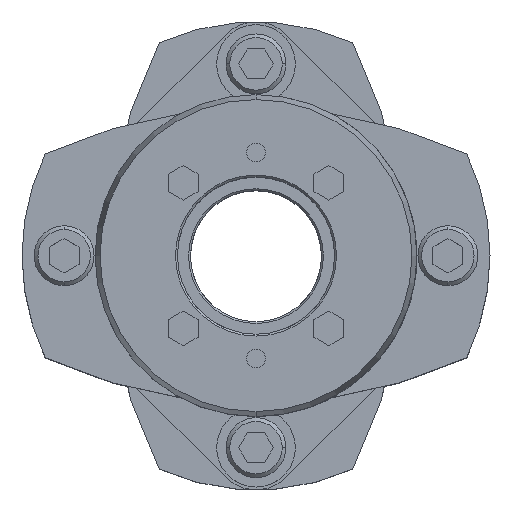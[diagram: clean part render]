
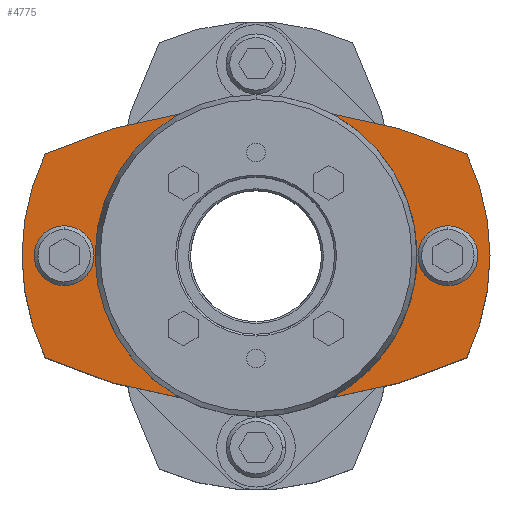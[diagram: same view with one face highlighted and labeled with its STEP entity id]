
A CAD part, top view. The second image highlights one B-rep face of the part: STEP entity #4775.
In plain terms, the highlighted planar face has unit normal (0, 0, 1).
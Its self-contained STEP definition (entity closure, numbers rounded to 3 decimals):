
#2207=CARTESIAN_POINT('',(0.,39.5,35.5));
#2208=VERTEX_POINT('',#2207);
#2224=CARTESIAN_POINT('',(-56.263,27.217,35.5));
#2225=VERTEX_POINT('',#2224);
#2232=CARTESIAN_POINT('',(0.,-95.5,35.5));
#2233=DIRECTION('',(0.0,0.0,-1.0));
#2234=DIRECTION('',(0.0,1.0,0.0));
#2235=AXIS2_PLACEMENT_3D('',#2232,#2233,#2234);
#2236=CIRCLE('',#2235,135.);
#2237=EDGE_CURVE('',#2225,#2208,#2236,.T.);
#2247=CARTESIAN_POINT('',(0.,-39.5,35.5));
#2248=VERTEX_POINT('',#2247);
#2257=CARTESIAN_POINT('',(-56.263,-27.217,35.5));
#2258=VERTEX_POINT('',#2257);
#2259=CARTESIAN_POINT('',(0.,95.5,35.5));
#2260=DIRECTION('',(0.0,0.0,-1.0));
#2261=DIRECTION('',(0.0,1.0,0.0));
#2262=AXIS2_PLACEMENT_3D('',#2259,#2260,#2261);
#2263=CIRCLE('',#2262,135.);
#2264=EDGE_CURVE('',#2248,#2258,#2263,.T.);
#2513=CARTESIAN_POINT('',(0.,32.5,35.5));
#2514=VERTEX_POINT('',#2513);
#2564=CARTESIAN_POINT('',(0.,-32.5,35.5));
#2565=VERTEX_POINT('',#2564);
#2572=CARTESIAN_POINT('',(0.,0.,35.5));
#2573=DIRECTION('',(0.0,0.0,-1.0));
#2574=DIRECTION('',(0.0,1.0,0.0));
#2575=AXIS2_PLACEMENT_3D('',#2572,#2573,#2574);
#2576=CIRCLE('',#2575,32.5);
#2577=EDGE_CURVE('',#2514,#2565,#2576,.T.);
#2673=CARTESIAN_POINT('',(-51.25,8.,35.5));
#2674=VERTEX_POINT('',#2673);
#2690=CARTESIAN_POINT('',(-51.25,-8.,35.5));
#2691=VERTEX_POINT('',#2690);
#2698=CARTESIAN_POINT('',(-51.25,0.,35.5));
#2699=DIRECTION('',(0.0,0.0,-1.0));
#2700=DIRECTION('',(0.0,1.0,0.0));
#2701=AXIS2_PLACEMENT_3D('',#2698,#2699,#2700);
#2702=CIRCLE('',#2701,8.0);
#2703=EDGE_CURVE('',#2674,#2691,#2702,.T.);
#2747=CARTESIAN_POINT('',(51.25,8.,35.5));
#2748=VERTEX_POINT('',#2747);
#2764=CARTESIAN_POINT('',(51.25,-8.,35.5));
#2765=VERTEX_POINT('',#2764);
#2772=CARTESIAN_POINT('',(51.25,0.,35.5));
#2773=DIRECTION('',(0.0,0.0,-1.0));
#2774=DIRECTION('',(0.0,1.0,0.0));
#2775=AXIS2_PLACEMENT_3D('',#2772,#2773,#2774);
#2776=CIRCLE('',#2775,8.0);
#2777=EDGE_CURVE('',#2748,#2765,#2776,.T.);
#3316=CARTESIAN_POINT('',(51.25,0.,35.5));
#3317=DIRECTION('',(0.0,0.0,-1.0));
#3318=DIRECTION('',(0.0,1.0,0.0));
#3319=AXIS2_PLACEMENT_3D('',#3316,#3317,#3318);
#3320=CIRCLE('',#3319,8.0);
#3321=EDGE_CURVE('',#2765,#2748,#3320,.T.);
#3376=CARTESIAN_POINT('',(-51.25,0.,35.5));
#3377=DIRECTION('',(0.0,0.0,-1.0));
#3378=DIRECTION('',(0.0,1.0,0.0));
#3379=AXIS2_PLACEMENT_3D('',#3376,#3377,#3378);
#3380=CIRCLE('',#3379,8.0);
#3381=EDGE_CURVE('',#2691,#2674,#3380,.T.);
#4448=CARTESIAN_POINT('',(0.,0.,35.5));
#4449=DIRECTION('',(0.0,0.0,-1.0));
#4450=DIRECTION('',(0.0,1.0,0.0));
#4451=AXIS2_PLACEMENT_3D('',#4448,#4449,#4450);
#4452=CIRCLE('',#4451,32.5);
#4453=EDGE_CURVE('',#2565,#2514,#4452,.T.);
#4669=CARTESIAN_POINT('',(56.263,27.217,35.5));
#4670=VERTEX_POINT('',#4669);
#4671=CARTESIAN_POINT('',(56.263,-27.217,35.5));
#4672=VERTEX_POINT('',#4671);
#4673=CARTESIAN_POINT('',(0.,0.,35.5));
#4674=DIRECTION('',(0.0,0.0,-1.0));
#4675=DIRECTION('',(0.0,1.0,0.0));
#4676=AXIS2_PLACEMENT_3D('',#4673,#4674,#4675);
#4677=CIRCLE('',#4676,62.5);
#4678=EDGE_CURVE('',#4670,#4672,#4677,.T.);
#4704=CARTESIAN_POINT('',(0.,95.5,35.5));
#4705=DIRECTION('',(0.0,0.0,-1.0));
#4706=DIRECTION('',(0.0,1.0,0.0));
#4707=AXIS2_PLACEMENT_3D('',#4704,#4705,#4706);
#4708=CIRCLE('',#4707,135.);
#4709=EDGE_CURVE('',#4672,#2248,#4708,.T.);
#4719=CARTESIAN_POINT('',(0.,0.,35.5));
#4720=DIRECTION('',(0.0,0.0,-1.0));
#4721=DIRECTION('',(0.0,1.0,0.0));
#4722=AXIS2_PLACEMENT_3D('',#4719,#4720,#4721);
#4723=CIRCLE('',#4722,62.5);
#4724=EDGE_CURVE('',#2258,#2225,#4723,.T.);
#4738=CARTESIAN_POINT('',(0.,-95.5,35.5));
#4739=DIRECTION('',(0.0,0.0,-1.0));
#4740=DIRECTION('',(0.0,1.0,0.0));
#4741=AXIS2_PLACEMENT_3D('',#4738,#4739,#4740);
#4742=CIRCLE('',#4741,135.);
#4743=EDGE_CURVE('',#2208,#4670,#4742,.T.);
#4750=CARTESIAN_POINT('',(0.,0.,35.5));
#4751=DIRECTION('',(0.0,0.0,1.0));
#4752=DIRECTION('',(0.0,1.0,0.0));
#4753=AXIS2_PLACEMENT_3D('',#4750,#4751,#4752);
#4754=PLANE('',#4753);
#4755=ORIENTED_EDGE('',*,*,#4678,.F.);
#4756=ORIENTED_EDGE('',*,*,#4743,.F.);
#4757=ORIENTED_EDGE('',*,*,#2237,.F.);
#4758=ORIENTED_EDGE('',*,*,#4724,.F.);
#4759=ORIENTED_EDGE('',*,*,#2264,.F.);
#4760=ORIENTED_EDGE('',*,*,#4709,.F.);
#4761=EDGE_LOOP('',(#4755,#4756,#4757,#4758,#4759,#4760));
#4762=FACE_OUTER_BOUND('',#4761,.T.);
#4763=ORIENTED_EDGE('',*,*,#2777,.T.);
#4764=ORIENTED_EDGE('',*,*,#3321,.T.);
#4765=EDGE_LOOP('',(#4763,#4764));
#4766=FACE_BOUND('',#4765,.T.);
#4767=ORIENTED_EDGE('',*,*,#2703,.T.);
#4768=ORIENTED_EDGE('',*,*,#3381,.T.);
#4769=EDGE_LOOP('',(#4767,#4768));
#4770=FACE_BOUND('',#4769,.T.);
#4771=ORIENTED_EDGE('',*,*,#2577,.T.);
#4772=ORIENTED_EDGE('',*,*,#4453,.T.);
#4773=EDGE_LOOP('',(#4771,#4772));
#4774=FACE_BOUND('',#4773,.T.);
#4775=ADVANCED_FACE('',(#4762,#4766,#4770,#4774),#4754,.T.);
